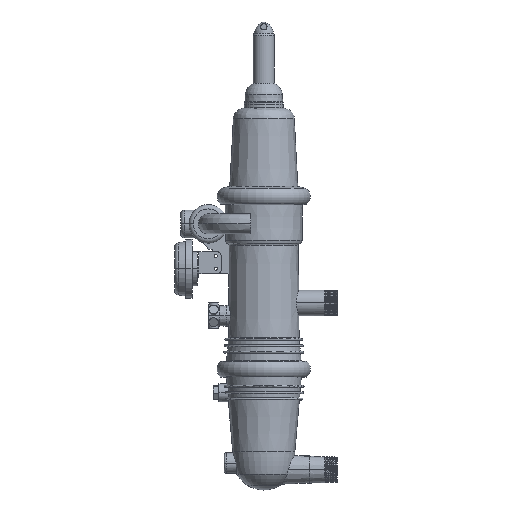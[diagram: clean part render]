
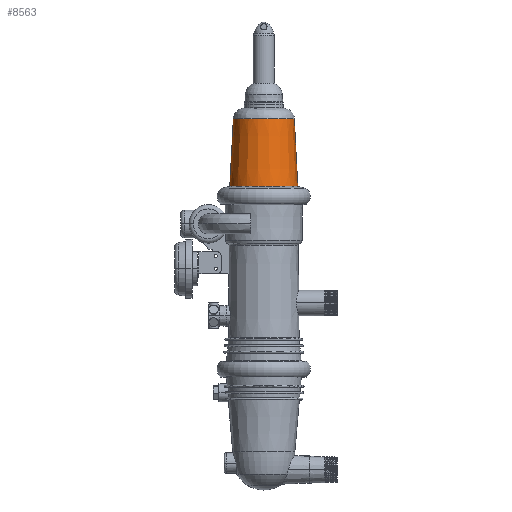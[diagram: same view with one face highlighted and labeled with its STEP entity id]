
A CAD part, top view. The second image highlights one B-rep face of the part: STEP entity #8563.
In plain terms, the highlighted conical face has half-angle 3 degrees and reference radius 79.639 mm.
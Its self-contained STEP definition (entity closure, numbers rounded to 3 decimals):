
#649 = DIRECTION ( 'NONE',  ( 0.052, -0.999, 0. ) ) ;
#778 = EDGE_CURVE ( 'NONE', #11690, #7528, #14942, .T. ) ;
#897 = VERTEX_POINT ( 'NONE', #6483 ) ;
#1781 = DIRECTION ( 'NONE',  ( 1., 0., 0. ) ) ;
#1979 = CARTESIAN_POINT ( 'NONE',  ( 71.347, 435.861, 0. ) ) ;
#2045 = DIRECTION ( 'NONE',  ( 0., -1., 0. ) ) ;
#2433 = EDGE_CURVE ( 'NONE', #7999, #11690, #11774, .T. ) ;
#2645 = AXIS2_PLACEMENT_3D ( 'NONE', #4620, #9619, #14620 ) ;
#3087 = LINE ( 'NONE', #11849, #5606 ) ;
#3402 = CARTESIAN_POINT ( 'NONE',  ( -71.321, 435.861, 0. ) ) ;
#3713 = CARTESIAN_POINT ( 'NONE',  ( -79.627, 277.395, 0. ) ) ;
#4620 = CARTESIAN_POINT ( 'NONE',  ( 0.013, 435.861, 0. ) ) ;
#5000 = CONICAL_SURFACE ( 'NONE', #14159, 79.639, 0.052 ) ;
#5606 = VECTOR ( 'NONE', #649, 1000. ) ;
#5862 = ORIENTED_EDGE ( 'NONE', *, *, #14184, .F. ) ;
#6483 = CARTESIAN_POINT ( 'NONE',  ( 79.652, 277.395, 0. ) ) ;
#7002 = ORIENTED_EDGE ( 'NONE', *, *, #11356, .F. ) ;
#7023 = DIRECTION ( 'NONE',  ( 1., 0., 0. ) ) ;
#7528 = VERTEX_POINT ( 'NONE', #10385 ) ;
#7998 = CARTESIAN_POINT ( 'NONE',  ( 0.013, 277.395, 0. ) ) ;
#7999 = VERTEX_POINT ( 'NONE', #1979 ) ;
#8260 = FACE_OUTER_BOUND ( 'NONE', #9705, .T. ) ;
#8563 = ADVANCED_FACE ( 'NONE', ( #8260 ), #5000, .T. ) ;
#8725 = DIRECTION ( 'NONE',  ( -0.052, -0.999, 0. ) ) ;
#9619 = DIRECTION ( 'NONE',  ( 0., -1., 0. ) ) ;
#9705 = EDGE_LOOP ( 'NONE', ( #11646, #13407, #5862, #7002 ) ) ;
#9980 = AXIS2_PLACEMENT_3D ( 'NONE', #7998, #12992, #1781 ) ;
#10385 = CARTESIAN_POINT ( 'NONE',  ( -79.627, 277.395, 0. ) ) ;
#11356 = EDGE_CURVE ( 'NONE', #7999, #897, #3087, .T. ) ;
#11646 = ORIENTED_EDGE ( 'NONE', *, *, #2433, .T. ) ;
#11690 = VERTEX_POINT ( 'NONE', #3402 ) ;
#11774 = CIRCLE ( 'NONE', #2645, 71.334 ) ;
#11849 = CARTESIAN_POINT ( 'NONE',  ( 79.652, 277.395, 0. ) ) ;
#12992 = DIRECTION ( 'NONE',  ( 0., -1., 0. ) ) ;
#13250 = CARTESIAN_POINT ( 'NONE',  ( 0.013, 277.395, 0. ) ) ;
#13407 = ORIENTED_EDGE ( 'NONE', *, *, #778, .T. ) ;
#14159 = AXIS2_PLACEMENT_3D ( 'NONE', #13250, #2045, #7023 ) ;
#14184 = EDGE_CURVE ( 'NONE', #897, #7528, #14958, .T. ) ;
#14620 = DIRECTION ( 'NONE',  ( 1., 0., 0. ) ) ;
#14942 = LINE ( 'NONE', #3713, #15984 ) ;
#14958 = CIRCLE ( 'NONE', #9980, 79.639 ) ;
#15984 = VECTOR ( 'NONE', #8725, 1000. ) ;
